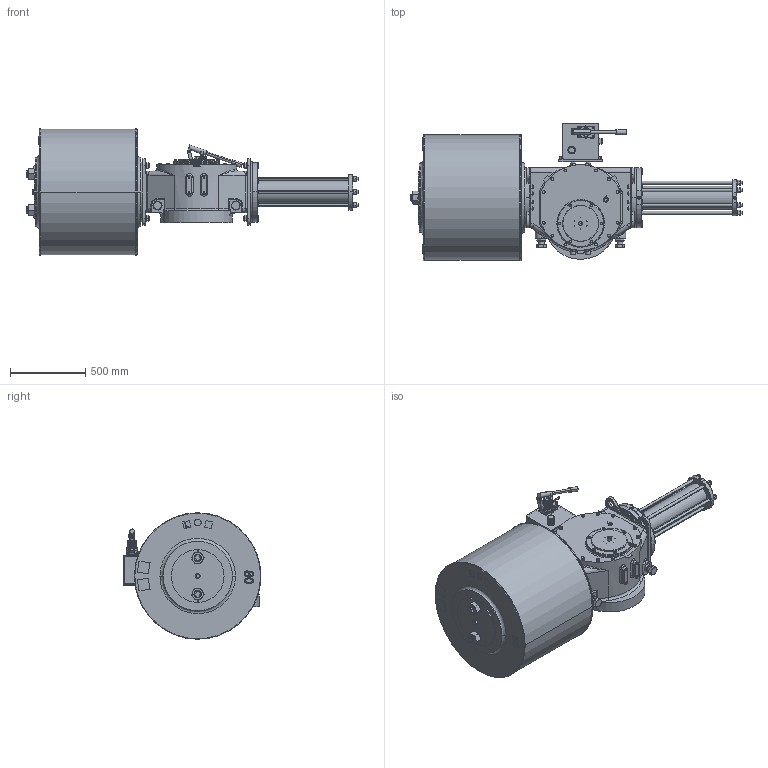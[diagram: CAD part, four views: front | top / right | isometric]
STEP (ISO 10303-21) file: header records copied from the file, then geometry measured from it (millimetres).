
FILE_DESCRIPTION (( 'STEP AP203' ), '1' );
FILE_NAME ('VTS6-800-MH.STEP', '2023-01-01T10:04:41', ( '' ), ( '' ), 'SwSTEP 2.0', 'SolidWorks 2020', '' );
FILE_SCHEMA (( 'CONFIG_CONTROL_DESIGN' ));
Length unit declared in the file: millimetre
Products named in the file (1): VTS6-800-MH
Bounding box: 2202 x 914.5 x 839 mm (x, y, z)
Volume: 499554967 mm3; surface area: 7125291.3 mm2
Topology: 77 solids, 80 shells, 3246 faces, 7993 edges, 5071 vertices
Faces by surface type: plane 1361, cylinder 1024, cone 752, bspline 109
Entity records: 112776 total; most frequent: CARTESIAN_POINT 36543, DIRECTION 15916, ORIENTED_EDGE 15870, EDGE_CURVE 7935, AXIS2_PLACEMENT_3D 6296, VERTEX_POINT 5071, EDGE_LOOP 3704, VECTOR 3324
